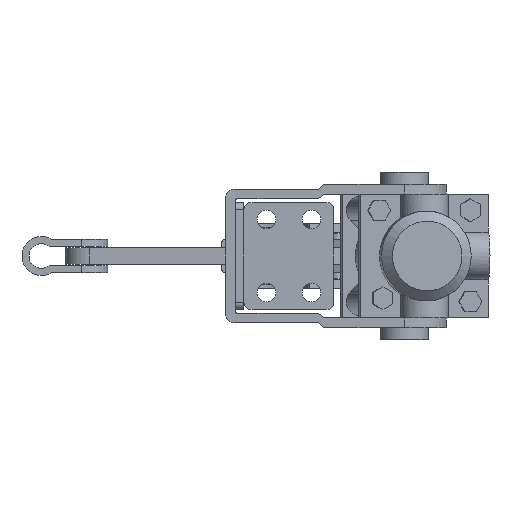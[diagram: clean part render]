
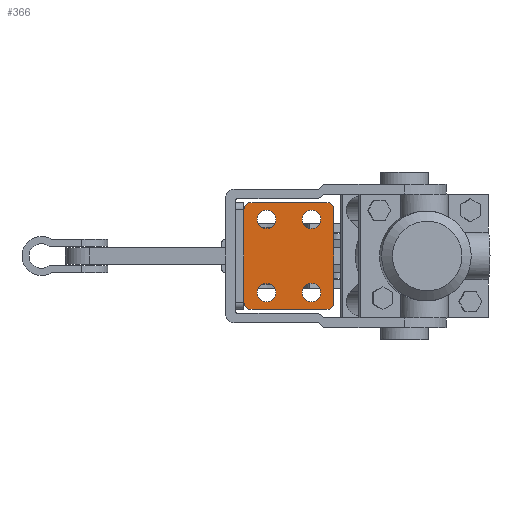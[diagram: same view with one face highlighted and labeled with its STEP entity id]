
A CAD part, front view. The second image highlights one B-rep face of the part: STEP entity #366.
In plain terms, the highlighted planar face has unit normal (0, -1, 0).
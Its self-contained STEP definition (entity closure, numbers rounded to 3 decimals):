
#366 = ADVANCED_FACE( '', ( #779, #780, #781, #782, #783 ), #784, .F. );
#779 = FACE_BOUND( '', #1706, .T. );
#780 = FACE_BOUND( '', #1707, .T. );
#781 = FACE_BOUND( '', #1708, .T. );
#782 = FACE_BOUND( '', #1709, .T. );
#783 = FACE_OUTER_BOUND( '', #1710, .T. );
#784 = PLANE( '', #1711 );
#1706 = EDGE_LOOP( '', ( #2715 ) );
#1707 = EDGE_LOOP( '', ( #2716 ) );
#1708 = EDGE_LOOP( '', ( #2717 ) );
#1709 = EDGE_LOOP( '', ( #2718 ) );
#1710 = EDGE_LOOP( '', ( #2719, #2720, #2721, #2722, #2723, #2724, #2725, #2726 ) );
#1711 = AXIS2_PLACEMENT_3D( '', #2727, #2728, #2729 );
#2715 = ORIENTED_EDGE( '', *, *, #5859, .T. );
#2716 = ORIENTED_EDGE( '', *, *, #5860, .T. );
#2717 = ORIENTED_EDGE( '', *, *, #5861, .T. );
#2718 = ORIENTED_EDGE( '', *, *, #5862, .T. );
#2719 = ORIENTED_EDGE( '', *, *, #5803, .T. );
#2720 = ORIENTED_EDGE( '', *, *, #5863, .F. );
#2721 = ORIENTED_EDGE( '', *, *, #5811, .T. );
#2722 = ORIENTED_EDGE( '', *, *, #5864, .F. );
#2723 = ORIENTED_EDGE( '', *, *, #5822, .F. );
#2724 = ORIENTED_EDGE( '', *, *, #5865, .F. );
#2725 = ORIENTED_EDGE( '', *, *, #5807, .F. );
#2726 = ORIENTED_EDGE( '', *, *, #5866, .F. );
#2727 = CARTESIAN_POINT( '', ( -0.5, 0., -20.8 ) );
#2728 = DIRECTION( '', ( 0., 1., 0. ) );
#2729 = DIRECTION( '', ( 0., 0., 1. ) );
#5803 = EDGE_CURVE( '', #6809, #6807, #6810, .T. );
#5807 = EDGE_CURVE( '', #6816, #6817, #6818, .T. );
#5811 = EDGE_CURVE( '', #6824, #6825, #6826, .T. );
#5822 = EDGE_CURVE( '', #6845, #6846, #6847, .T. );
#5859 = EDGE_CURVE( '', #6918, #6918, #6919, .T. );
#5860 = EDGE_CURVE( '', #6920, #6920, #6921, .T. );
#5861 = EDGE_CURVE( '', #6922, #6922, #6923, .T. );
#5862 = EDGE_CURVE( '', #6924, #6924, #6925, .T. );
#5863 = EDGE_CURVE( '', #6824, #6807, #6926, .T. );
#5864 = EDGE_CURVE( '', #6846, #6825, #6927, .T. );
#5865 = EDGE_CURVE( '', #6817, #6845, #6928, .T. );
#5866 = EDGE_CURVE( '', #6809, #6816, #6929, .T. );
#6807 = VERTEX_POINT( '', #8504 );
#6809 = VERTEX_POINT( '', #8507 );
#6810 = LINE( '', #8508, #8509 );
#6816 = VERTEX_POINT( '', #8518 );
#6817 = VERTEX_POINT( '', #8519 );
#6818 = LINE( '', #8520, #8521 );
#6824 = VERTEX_POINT( '', #8530 );
#6825 = VERTEX_POINT( '', #8531 );
#6826 = LINE( '', #8532, #8533 );
#6845 = VERTEX_POINT( '', #8562 );
#6846 = VERTEX_POINT( '', #8563 );
#6847 = LINE( '', #8564, #8565 );
#6918 = VERTEX_POINT( '', #8664 );
#6919 = CIRCLE( '', #8665, 3.25 );
#6920 = VERTEX_POINT( '', #8666 );
#6921 = CIRCLE( '', #8667, 3.25 );
#6922 = VERTEX_POINT( '', #8668 );
#6923 = CIRCLE( '', #8669, 3.25 );
#6924 = VERTEX_POINT( '', #8670 );
#6925 = CIRCLE( '', #8671, 3.25 );
#6926 = CIRCLE( '', #8672, 2.5 );
#6927 = CIRCLE( '', #8673, 2.5 );
#6928 = CIRCLE( '', #8674, 2.5 );
#6929 = CIRCLE( '', #8675, 2.5 );
#8504 = CARTESIAN_POINT( '', ( 3., 0., -16.5 ) );
#8507 = CARTESIAN_POINT( '', ( 3., 0., 16.5 ) );
#8508 = CARTESIAN_POINT( '', ( 3., 0., 19.5 ) );
#8509 = VECTOR( '', #11910, 1000. );
#8518 = CARTESIAN_POINT( '', ( 5.5, 0., 19. ) );
#8519 = CARTESIAN_POINT( '', ( 32.5, 0., 19. ) );
#8520 = CARTESIAN_POINT( '', ( 0., 0., 19. ) );
#8521 = VECTOR( '', #11914, 1000. );
#8530 = CARTESIAN_POINT( '', ( 5.5, 0., -19. ) );
#8531 = CARTESIAN_POINT( '', ( 32.5, 0., -19. ) );
#8532 = CARTESIAN_POINT( '', ( 0., 0., -19. ) );
#8533 = VECTOR( '', #11918, 1000. );
#8562 = CARTESIAN_POINT( '', ( 35., 0., 16.5 ) );
#8563 = CARTESIAN_POINT( '', ( 35., 0., -16.5 ) );
#8564 = CARTESIAN_POINT( '', ( 35., 0., 19. ) );
#8565 = VECTOR( '', #11929, 1000. );
#8664 = CARTESIAN_POINT( '', ( 30.25, 0., 13. ) );
#8665 = AXIS2_PLACEMENT_3D( '', #11982, #11983, #11984 );
#8666 = CARTESIAN_POINT( '', ( 14.25, 0., 13. ) );
#8667 = AXIS2_PLACEMENT_3D( '', #11985, #11986, #11987 );
#8668 = CARTESIAN_POINT( '', ( 30.25, 0., -13. ) );
#8669 = AXIS2_PLACEMENT_3D( '', #11988, #11989, #11990 );
#8670 = CARTESIAN_POINT( '', ( 14.25, 0., -13. ) );
#8671 = AXIS2_PLACEMENT_3D( '', #11991, #11992, #11993 );
#8672 = AXIS2_PLACEMENT_3D( '', #11994, #11995, #11996 );
#8673 = AXIS2_PLACEMENT_3D( '', #11997, #11998, #11999 );
#8674 = AXIS2_PLACEMENT_3D( '', #12000, #12001, #12002 );
#8675 = AXIS2_PLACEMENT_3D( '', #12003, #12004, #12005 );
#11910 = DIRECTION( '', ( 0., 0., -1. ) );
#11914 = DIRECTION( '', ( 1., 0., 0. ) );
#11918 = DIRECTION( '', ( 1., 0., 0. ) );
#11929 = DIRECTION( '', ( 0., 0., -1. ) );
#11982 = CARTESIAN_POINT( '', ( 27., 0., 13. ) );
#11983 = DIRECTION( '', ( 0., 1., 0. ) );
#11984 = DIRECTION( '', ( 1., 0., 0. ) );
#11985 = CARTESIAN_POINT( '', ( 11., 0., 13. ) );
#11986 = DIRECTION( '', ( 0., 1., 0. ) );
#11987 = DIRECTION( '', ( 1., 0., 0. ) );
#11988 = CARTESIAN_POINT( '', ( 27., 0., -13. ) );
#11989 = DIRECTION( '', ( 0., 1., 0. ) );
#11990 = DIRECTION( '', ( 1., 0., 0. ) );
#11991 = CARTESIAN_POINT( '', ( 11., 0., -13. ) );
#11992 = DIRECTION( '', ( 0., 1., 0. ) );
#11993 = DIRECTION( '', ( 1., 0., 0. ) );
#11994 = CARTESIAN_POINT( '', ( 5.5, 0., -16.5 ) );
#11995 = DIRECTION( '', ( 0., 1., 0. ) );
#11996 = DIRECTION( '', ( 1., 0., 0. ) );
#11997 = CARTESIAN_POINT( '', ( 32.5, 0., -16.5 ) );
#11998 = DIRECTION( '', ( 0., 1., 0. ) );
#11999 = DIRECTION( '', ( 1., 0., 0. ) );
#12000 = CARTESIAN_POINT( '', ( 32.5, 0., 16.5 ) );
#12001 = DIRECTION( '', ( 0., 1., 0. ) );
#12002 = DIRECTION( '', ( 1., 0., 0. ) );
#12003 = CARTESIAN_POINT( '', ( 5.5, 0., 16.5 ) );
#12004 = DIRECTION( '', ( 0., 1., 0. ) );
#12005 = DIRECTION( '', ( 1., 0., 0. ) );
